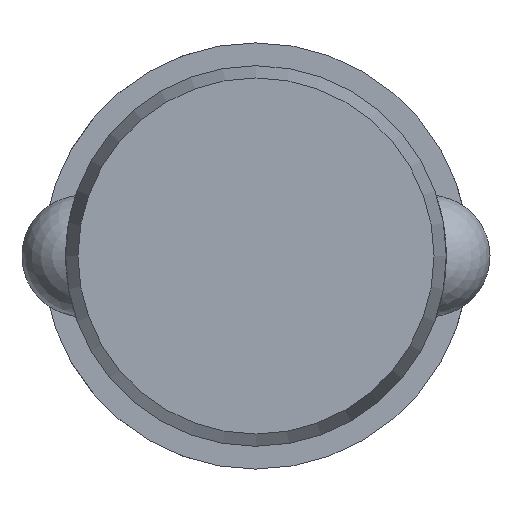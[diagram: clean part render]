
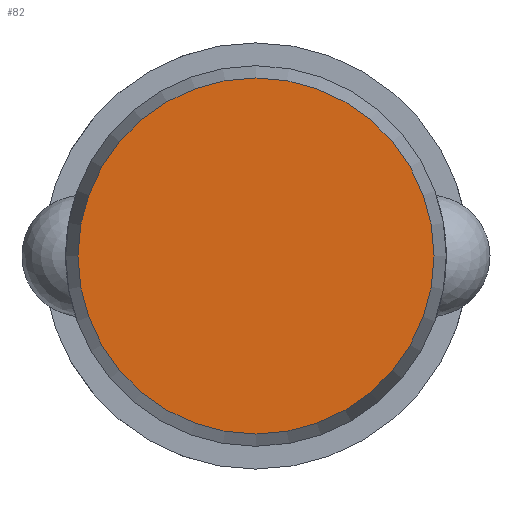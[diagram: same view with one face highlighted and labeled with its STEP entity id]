
A CAD part, left-side view. The second image highlights one B-rep face of the part: STEP entity #82.
In plain terms, the highlighted planar face has unit normal (-1, 0, 0).
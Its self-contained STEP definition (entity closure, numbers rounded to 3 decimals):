
#82 = ADVANCED_FACE( '', ( #121 ), #122, .F. );
#121 = FACE_OUTER_BOUND( '', #194, .T. );
#122 = PLANE( '', #195 );
#194 = EDGE_LOOP( '', ( #306 ) );
#195 = AXIS2_PLACEMENT_3D( '', #307, #308, #309 );
#306 = ORIENTED_EDGE( '', *, *, #465, .F. );
#307 = CARTESIAN_POINT( '', ( 0., 0., 0. ) );
#308 = DIRECTION( '', ( 1., 0., 0. ) );
#309 = DIRECTION( '', ( 0., 0., -1. ) );
#465 = EDGE_CURVE( '', #537, #537, #538, .T. );
#537 = VERTEX_POINT( '', #765 );
#538 = CIRCLE( '', #766, 11.696 );
#765 = CARTESIAN_POINT( '', ( 0., 0., -11.696 ) );
#766 = AXIS2_PLACEMENT_3D( '', #979, #980, #981 );
#979 = CARTESIAN_POINT( '', ( 0., 0., 0. ) );
#980 = DIRECTION( '', ( 1., 0., 0. ) );
#981 = DIRECTION( '', ( 0., 0., -1. ) );
